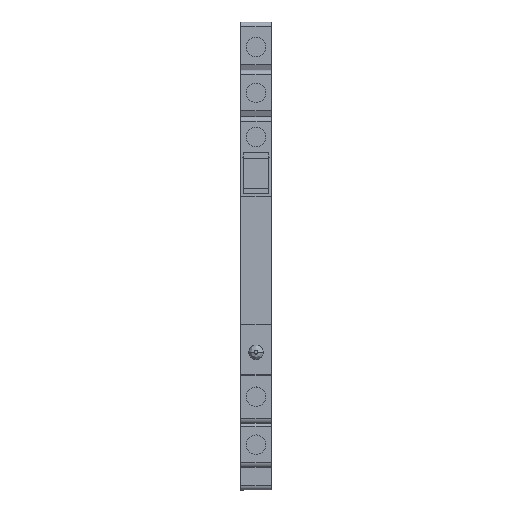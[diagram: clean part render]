
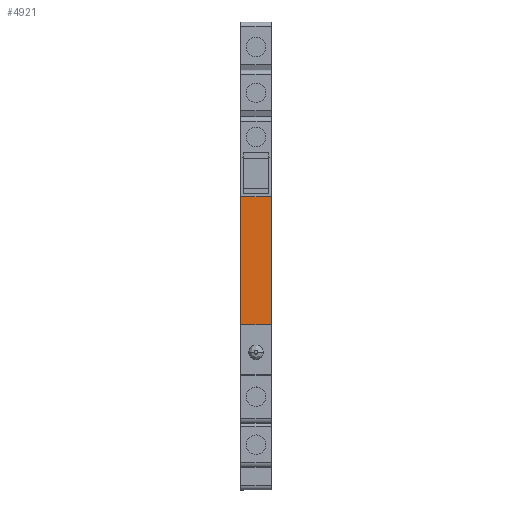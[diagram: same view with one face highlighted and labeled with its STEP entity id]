
A CAD part, top view. The second image highlights one B-rep face of the part: STEP entity #4921.
In plain terms, the highlighted planar face has unit normal (0, 0, 1).
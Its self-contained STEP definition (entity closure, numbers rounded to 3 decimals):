
#598=DIRECTION('',(0.,1.,0.));
#599=VECTOR('',#598,26.3);
#600=CARTESIAN_POINT('',(0.,33.8,57.7));
#601=LINE('',#600,#599);
#754=DIRECTION('',(0.,-1.,0.));
#755=VECTOR('',#754,26.3);
#756=CARTESIAN_POINT('',(6.2,60.1,57.7));
#757=LINE('',#756,#755);
#2346=DIRECTION('',(-1.,0.,0.));
#2347=VECTOR('',#2346,6.2);
#2348=CARTESIAN_POINT('',(6.2,33.8,57.7));
#2349=LINE('',#2348,#2347);
#2353=DIRECTION('',(-1.,0.,0.));
#2354=VECTOR('',#2353,6.2);
#2355=CARTESIAN_POINT('',(6.2,60.1,57.7));
#2356=LINE('',#2355,#2354);
#2842=CARTESIAN_POINT('',(6.2,60.1,57.7));
#2843=CARTESIAN_POINT('',(6.2,33.8,57.7));
#2844=VERTEX_POINT('',#2842);
#2845=VERTEX_POINT('',#2843);
#2846=CARTESIAN_POINT('',(0.,60.1,57.7));
#2847=VERTEX_POINT('',#2846);
#2848=CARTESIAN_POINT('',(0.,33.8,57.7));
#2849=VERTEX_POINT('',#2848);
#4909=CARTESIAN_POINT('',(0.,33.8,57.7));
#4910=DIRECTION('',(0.,0.,1.));
#4911=DIRECTION('',(1.,0.,0.));
#4912=AXIS2_PLACEMENT_3D('',#4909,#4910,#4911);
#4913=PLANE('',#4912);
#4914=ORIENTED_EDGE('',*,*,#3423,.T.);
#4915=ORIENTED_EDGE('',*,*,#4904,.T.);
#4916=ORIENTED_EDGE('',*,*,#3250,.T.);
#4918=ORIENTED_EDGE('',*,*,#4917,.F.);
#4919=EDGE_LOOP('',(#4914,#4915,#4916,#4918));
#4920=FACE_OUTER_BOUND('',#4919,.F.);
#3250=EDGE_CURVE('',#2849,#2847,#601,.T.);
#3423=EDGE_CURVE('',#2844,#2845,#757,.T.);
#4904=EDGE_CURVE('',#2845,#2849,#2349,.T.);
#4917=EDGE_CURVE('',#2844,#2847,#2356,.T.);
#4921=ADVANCED_FACE('',(#4920),#4913,.T.);
